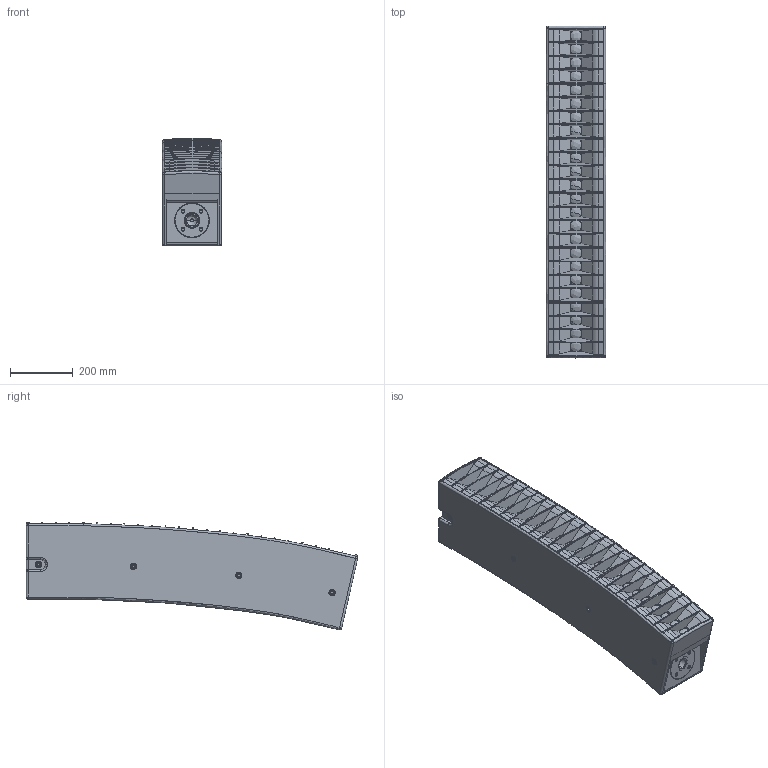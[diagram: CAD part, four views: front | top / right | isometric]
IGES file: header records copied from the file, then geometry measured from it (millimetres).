
Start section: SolidWorks IGES file using analytic representation for surfaces
Global section: file name: C:\Dokumente und Einstellungen\PC_Fabian\Desktop\G-Serie\Seeburg_GL24.IGS; native system: SolidWorks 2009; preprocessor: SolidWorks 2009; author: PC_Fabian; date: 121015.151317; units: millimetre
Bounding box: 189 x 1057.75 x 343 mm (x, y, z)
Surface area: 2456522.7 mm2 (no closed solid volume)
Topology: 0 solids, 0 shells, 1303 faces, 19350 edges, 19324 vertices
Faces by surface type: bspline 701, revolution 602
